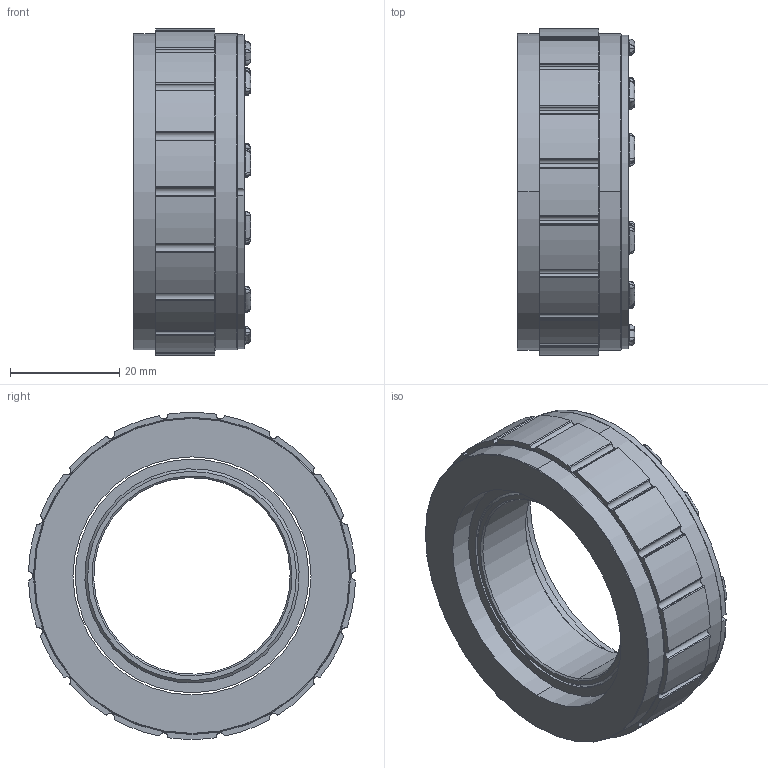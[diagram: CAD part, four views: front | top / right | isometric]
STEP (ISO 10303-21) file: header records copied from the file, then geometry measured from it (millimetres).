
FILE_DESCRIPTION (( 'STEP AP214' ), '1' );
FILE_NAME ('E-00188890.03.step', '2026-05-27T07:09:51', ( '' ), ( '' ), 'SwSTEP 2.0', 'SolidWorks 2025', '' );
FILE_SCHEMA (( 'AUTOMOTIVE_DESIGN' ));
Length unit declared in the file: millimetre
Products named in the file (6): E-00188887_Standard; E-00188890.03; E-00204369_Standard; E-00188886_Standard; E-00204427_Standard; E-00204428_Standard
Assembly tree (5 placements, depth 3):
  E-00188890.03
    E-00188886_Standard
    E-00188887_Standard
    E-00204427_Standard
      E-00204369_Standard
      E-00204428_Standard
Bounding box: 21.5 x 59.87 x 59.87 mm (x, y, z)
Volume: 29887.4 mm3; surface area: 19498.3 mm2
Topology: 156 solids, 156 shells, 4642 faces, 12699 edges, 8287 vertices
Faces by surface type: cylinder 2760, plane 1733, bspline 98, torus 43, cone 8
Entity records: 154216 total; most frequent: CARTESIAN_POINT 30250, DIRECTION 26455, ORIENTED_EDGE 25202, EDGE_CURVE 12601, AXIS2_PLACEMENT_3D 9737, VERTEX_POINT 8287, LINE 6981, VECTOR 6981
